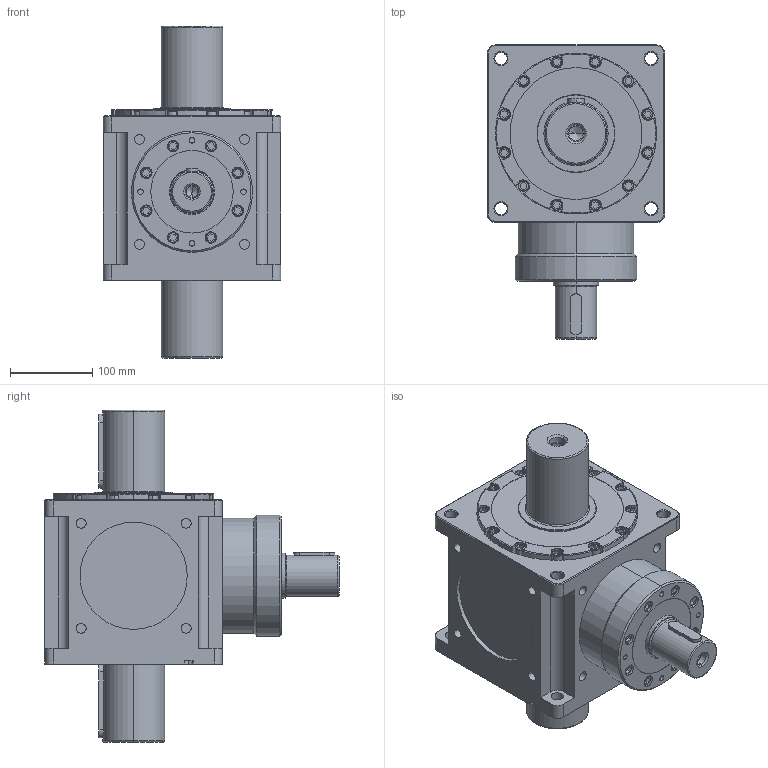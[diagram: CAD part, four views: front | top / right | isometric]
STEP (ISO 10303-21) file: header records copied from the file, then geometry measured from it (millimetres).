
FILE_DESCRIPTION (( 'STEP AP214' ), '1' );
FILE_NAME ('CCT215A-002-2P.STEP', '2025-05-28T06:26:37', ( '微软用户' ), ( '微软中国' ), 'SwSTEP 2.0', 'SolidWorks 2024', '' );
FILE_SCHEMA (( 'AUTOMOTIVE_DESIGN' ));
Length unit declared in the file: millimetre
Products named in the file (3): CCW215A-002-2P箱体; CCT215A输入组件; CCT215A-002-2P
Assembly tree (2 placements, depth 2):
  CCT215A-002-2P
    CCW215A-002-2P箱体
    CCT215A输入组件
Bounding box: 215 x 356.5 x 402.5 mm (x, y, z)
Volume: 10505628.2 mm3; surface area: 453158.5 mm2
Topology: 2 solids, 2 shells, 720 faces, 1701 edges, 1069 vertices
Faces by surface type: plane 292, cylinder 275, torus 89, cone 40, bspline 24
Entity records: 21856 total; most frequent: CARTESIAN_POINT 4749, DIRECTION 3772, ORIENTED_EDGE 3390, EDGE_CURVE 1695, AXIS2_PLACEMENT_3D 1434, VERTEX_POINT 1069, LINE 904, VECTOR 904
